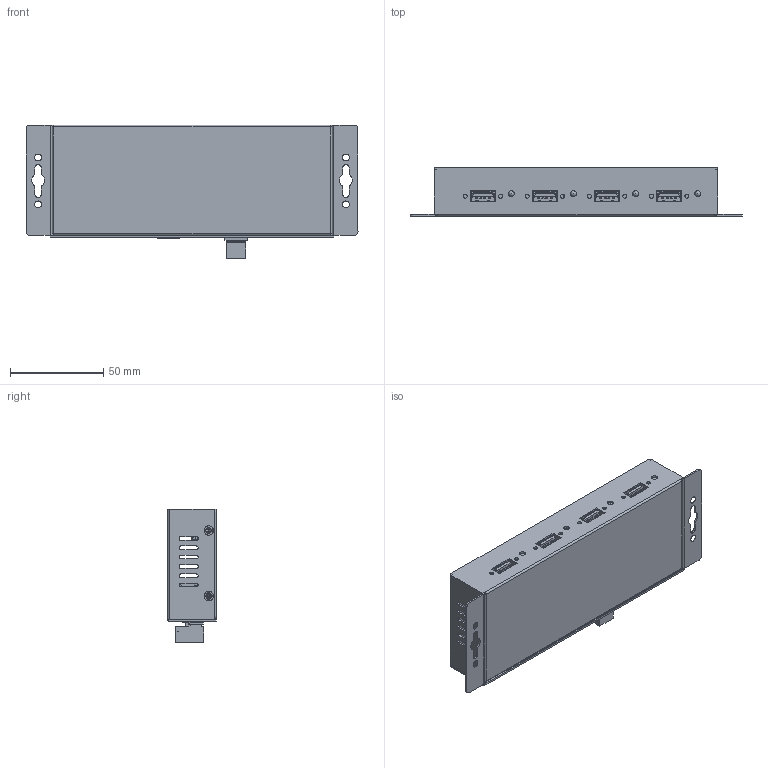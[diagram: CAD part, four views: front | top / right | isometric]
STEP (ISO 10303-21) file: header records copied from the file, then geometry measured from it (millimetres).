
FILE_DESCRIPTION(/* description */ (''),/* implementation_level */ '2;1');
FILE_NAME(/* name */ 'C:/Users/Leo/Desktop/USBG-4NET/USBG-4NET Model3D LPV1.step',/* time_stamp */ '2021-05-12T11:57:55-04:00',/* author */ (''),/* organization */ (''),/* preprocessor_version */ 'ST-DEVELOPER v18.1',/* originating_system */ 'Autodesk Translation Framework v10.6.0.1341',/* authorisation */ '');
FILE_SCHEMA (('AUTOMOTIVE_DESIGN { 1 0 10303 214 3 1 1 }'));
Products named in the file (3): USBG-4NET; Connector green phoenix 2pines male 5.08 v6; Component53
Assembly tree (2 placements, depth 2):
  USBG-4NET
    Connector green phoenix 2pines male 5.08 v6
    Component53
Bounding box: 178.14 x 26.15 x 71.83 mm (x, y, z)
Volume: 54115.1 mm3; surface area: 94555.4 mm2
Topology: 4 solids, 46 shells, 6604 faces, 19141 edges, 12329 vertices
Faces by surface type: plane 4984, cylinder 1388, bspline 117, cone 96, sphere 12, torus 7
Full cylindrical faces by diameter (mm): 0.8 x16, 1 x8, 1.2 x4, 1.6 x2, 1.679 x1, 2.14 x10, 2.16 x1, 2.35 x16, 2.89 x5, 2.998 x1, 3 x24, 3.2 x8, 3.35 x1, 3.42 x2, 3.5 x2, 3.54 x1, 3.643 x1, 3.86 x2, 4.2 x4, 5.04 x2, 6 x1
Entity records: 229114 total; most frequent: CARTESIAN_POINT 53125, ORIENTED_EDGE 38214, DIRECTION 34440, EDGE_CURVE 19107, LINE 15690, VECTOR 15690, VERTEX_POINT 12329, AXIS2_PLACEMENT_3D 9375
